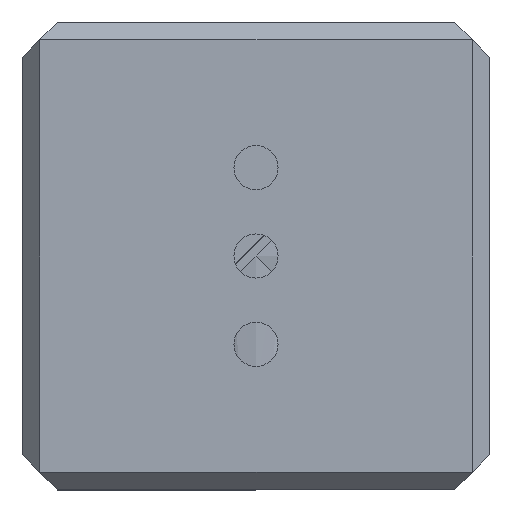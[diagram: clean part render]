
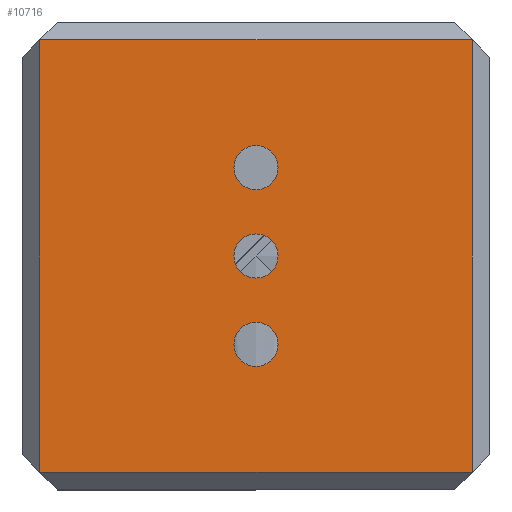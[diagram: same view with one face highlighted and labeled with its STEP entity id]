
A CAD part, front view. The second image highlights one B-rep face of the part: STEP entity #10716.
In plain terms, the highlighted planar face has unit normal (0, -1, 0).
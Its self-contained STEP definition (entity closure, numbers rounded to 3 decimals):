
#247 = CARTESIAN_POINT ( 'NONE',  ( -24.5, -59.5, -24.5 ) ) ;
#314 = CARTESIAN_POINT ( 'NONE',  ( 24.5, -59.5, 24.5 ) ) ;
#408 = AXIS2_PLACEMENT_3D ( 'NONE', #2379, #1194, #5058 ) ;
#650 = CIRCLE ( 'NONE', #14995, 2.5 ) ;
#725 = VECTOR ( 'NONE', #5125, 1000. ) ;
#836 = AXIS2_PLACEMENT_3D ( 'NONE', #7689, #5460, #4127 ) ;
#1018 = CARTESIAN_POINT ( 'NONE',  ( -2.5, -59.5, 10. ) ) ;
#1071 = AXIS2_PLACEMENT_3D ( 'NONE', #14879, #14802, #8689 ) ;
#1194 = DIRECTION ( 'NONE',  ( 0., -1., 0. ) ) ;
#1236 = AXIS2_PLACEMENT_3D ( 'NONE', #13470, #11197, #2737 ) ;
#1645 = EDGE_CURVE ( 'NONE', #12938, #12066, #12323, .T. ) ;
#1738 = CARTESIAN_POINT ( 'NONE',  ( -24.5, -59.5, 24.5 ) ) ;
#2175 = PLANE ( 'NONE',  #5010 ) ;
#2253 = FACE_BOUND ( 'NONE', #12044, .T. ) ;
#2330 = CARTESIAN_POINT ( 'NONE',  ( 24.5, -59.5, -24.5 ) ) ;
#2348 = EDGE_CURVE ( 'NONE', #3740, #7108, #4327, .T. ) ;
#2379 = CARTESIAN_POINT ( 'NONE',  ( 0., -59.5, 0. ) ) ;
#2679 = CIRCLE ( 'NONE', #408, 2.5 ) ;
#2737 = DIRECTION ( 'NONE',  ( 1., 0., 0. ) ) ;
#3315 = ORIENTED_EDGE ( 'NONE', *, *, #8763, .T. ) ;
#3364 = CIRCLE ( 'NONE', #836, 2.5 ) ;
#3418 = VECTOR ( 'NONE', #12005, 1000. ) ;
#3586 = CARTESIAN_POINT ( 'NONE',  ( -2.5, -59.5, -10. ) ) ;
#3740 = VERTEX_POINT ( 'NONE', #1018 ) ;
#3809 = DIRECTION ( 'NONE',  ( 1., 0., 0. ) ) ;
#4026 = CARTESIAN_POINT ( 'NONE',  ( 24.5, -59.5, 26.5 ) ) ;
#4127 = DIRECTION ( 'NONE',  ( 1., 0., 0. ) ) ;
#4327 = CIRCLE ( 'NONE', #14133, 2.5 ) ;
#4567 = EDGE_LOOP ( 'NONE', ( #11405, #12774 ) ) ;
#4784 = FACE_OUTER_BOUND ( 'NONE', #14396, .T. ) ;
#5010 = AXIS2_PLACEMENT_3D ( 'NONE', #5969, #14237, #8350 ) ;
#5058 = DIRECTION ( 'NONE',  ( 1., 0., 0. ) ) ;
#5125 = DIRECTION ( 'NONE',  ( -1., 0., 0. ) ) ;
#5294 = EDGE_CURVE ( 'NONE', #7108, #3740, #3364, .T. ) ;
#5309 = ORIENTED_EDGE ( 'NONE', *, *, #9446, .F. ) ;
#5460 = DIRECTION ( 'NONE',  ( 0., -1., 0. ) ) ;
#5969 = CARTESIAN_POINT ( 'NONE',  ( 0., -59.5, 0. ) ) ;
#5977 = VERTEX_POINT ( 'NONE', #5996 ) ;
#5996 = CARTESIAN_POINT ( 'NONE',  ( 2.5, -59.5, 0. ) ) ;
#6136 = EDGE_CURVE ( 'NONE', #9353, #6888, #14706, .T. ) ;
#6164 = VERTEX_POINT ( 'NONE', #9402 ) ;
#6417 = VECTOR ( 'NONE', #14106, 1000. ) ;
#6802 = ORIENTED_EDGE ( 'NONE', *, *, #13737, .T. ) ;
#6878 = DIRECTION ( 'NONE',  ( 1., 0., 0. ) ) ;
#6888 = VERTEX_POINT ( 'NONE', #3586 ) ;
#7108 = VERTEX_POINT ( 'NONE', #14912 ) ;
#7262 = LINE ( 'NONE', #9319, #6417 ) ;
#7689 = CARTESIAN_POINT ( 'NONE',  ( 0., -59.5, 10. ) ) ;
#7723 = ORIENTED_EDGE ( 'NONE', *, *, #1645, .T. ) ;
#8350 = DIRECTION ( 'NONE',  ( 1., 0., 0. ) ) ;
#8689 = DIRECTION ( 'NONE',  ( 1., 0., 0. ) ) ;
#8757 = VERTEX_POINT ( 'NONE', #247 ) ;
#8763 = EDGE_CURVE ( 'NONE', #9312, #8757, #10746, .T. ) ;
#8791 = DIRECTION ( 'NONE',  ( 0., -1., 0. ) ) ;
#9312 = VERTEX_POINT ( 'NONE', #1738 ) ;
#9319 = CARTESIAN_POINT ( 'NONE',  ( 26.5, -59.5, -24.5 ) ) ;
#9353 = VERTEX_POINT ( 'NONE', #12649 ) ;
#9376 = FACE_BOUND ( 'NONE', #4567, .T. ) ;
#9402 = CARTESIAN_POINT ( 'NONE',  ( -2.5, -59.5, 0. ) ) ;
#9446 = EDGE_CURVE ( 'NONE', #5977, #6164, #2679, .T. ) ;
#9717 = ORIENTED_EDGE ( 'NONE', *, *, #12699, .F. ) ;
#10060 = EDGE_CURVE ( 'NONE', #6164, #5977, #650, .T. ) ;
#10113 = VECTOR ( 'NONE', #12246, 1000. ) ;
#10716 = ADVANCED_FACE ( 'NONE', ( #10717, #9376, #2253, #4784 ), #2175, .T. ) ;
#10717 = FACE_BOUND ( 'NONE', #11958, .T. ) ;
#10746 = LINE ( 'NONE', #15510, #3418 ) ;
#11197 = DIRECTION ( 'NONE',  ( 0., -1., 0. ) ) ;
#11337 = CIRCLE ( 'NONE', #1236, 2.5 ) ;
#11405 = ORIENTED_EDGE ( 'NONE', *, *, #5294, .F. ) ;
#11958 = EDGE_LOOP ( 'NONE', ( #5309, #15302 ) ) ;
#12005 = DIRECTION ( 'NONE',  ( 0., 0., -1. ) ) ;
#12044 = EDGE_LOOP ( 'NONE', ( #14915, #9717 ) ) ;
#12066 = VERTEX_POINT ( 'NONE', #314 ) ;
#12246 = DIRECTION ( 'NONE',  ( 0., 0., 1. ) ) ;
#12269 = EDGE_CURVE ( 'NONE', #12066, #9312, #13645, .T. ) ;
#12323 = LINE ( 'NONE', #4026, #10113 ) ;
#12649 = CARTESIAN_POINT ( 'NONE',  ( 2.5, -59.5, -10. ) ) ;
#12699 = EDGE_CURVE ( 'NONE', #6888, #9353, #11337, .T. ) ;
#12774 = ORIENTED_EDGE ( 'NONE', *, *, #2348, .F. ) ;
#12804 = CARTESIAN_POINT ( 'NONE',  ( 0., -59.5, 10. ) ) ;
#12938 = VERTEX_POINT ( 'NONE', #2330 ) ;
#13176 = ORIENTED_EDGE ( 'NONE', *, *, #12269, .T. ) ;
#13434 = CARTESIAN_POINT ( 'NONE',  ( 0., -59.5, 0. ) ) ;
#13470 = CARTESIAN_POINT ( 'NONE',  ( 0., -59.5, -10. ) ) ;
#13645 = LINE ( 'NONE', #14886, #725 ) ;
#13737 = EDGE_CURVE ( 'NONE', #8757, #12938, #7262, .T. ) ;
#14106 = DIRECTION ( 'NONE',  ( 1., 0., 0. ) ) ;
#14133 = AXIS2_PLACEMENT_3D ( 'NONE', #12804, #15065, #6878 ) ;
#14237 = DIRECTION ( 'NONE',  ( 0., -1., 0. ) ) ;
#14396 = EDGE_LOOP ( 'NONE', ( #13176, #3315, #6802, #7723 ) ) ;
#14706 = CIRCLE ( 'NONE', #1071, 2.5 ) ;
#14802 = DIRECTION ( 'NONE',  ( 0., -1., 0. ) ) ;
#14879 = CARTESIAN_POINT ( 'NONE',  ( 0., -59.5, -10. ) ) ;
#14886 = CARTESIAN_POINT ( 'NONE',  ( -26.5, -59.5, 24.5 ) ) ;
#14912 = CARTESIAN_POINT ( 'NONE',  ( 2.5, -59.5, 10. ) ) ;
#14915 = ORIENTED_EDGE ( 'NONE', *, *, #6136, .F. ) ;
#14995 = AXIS2_PLACEMENT_3D ( 'NONE', #13434, #8791, #3809 ) ;
#15065 = DIRECTION ( 'NONE',  ( 0., -1., 0. ) ) ;
#15302 = ORIENTED_EDGE ( 'NONE', *, *, #10060, .F. ) ;
#15510 = CARTESIAN_POINT ( 'NONE',  ( -24.5, -59.5, -26.5 ) ) ;
